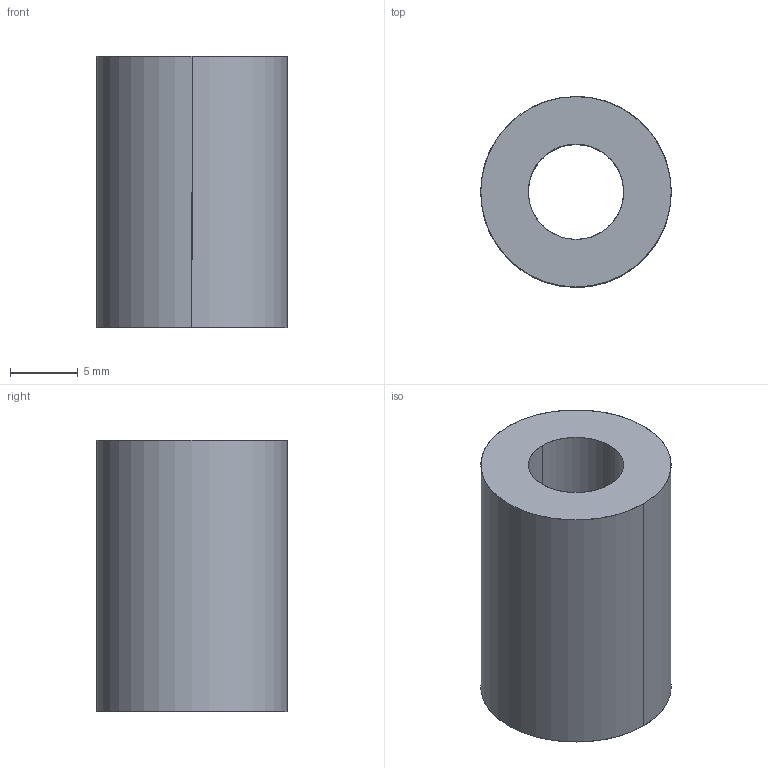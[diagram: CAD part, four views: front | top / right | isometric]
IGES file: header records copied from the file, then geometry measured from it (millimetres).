
Global section: file name: E:\UnigraphicsGraphicData\MISUMI_PRESS-PARTS\IGES\3d_swh14-20_00715_r00.igs; native system: NX V5.0; preprocessor: UGS NX IGES V5.0; author: MISUMI; date: 20110105.163257; units: millimetre
Bounding box: 14 x 14 x 20 mm (x, y, z)
Surface area: 1551.1 mm2 (no closed solid volume)
Topology: 0 solids, 0 shells, 6 faces, 48 edges, 48 vertices
Faces by surface type: bspline 6
